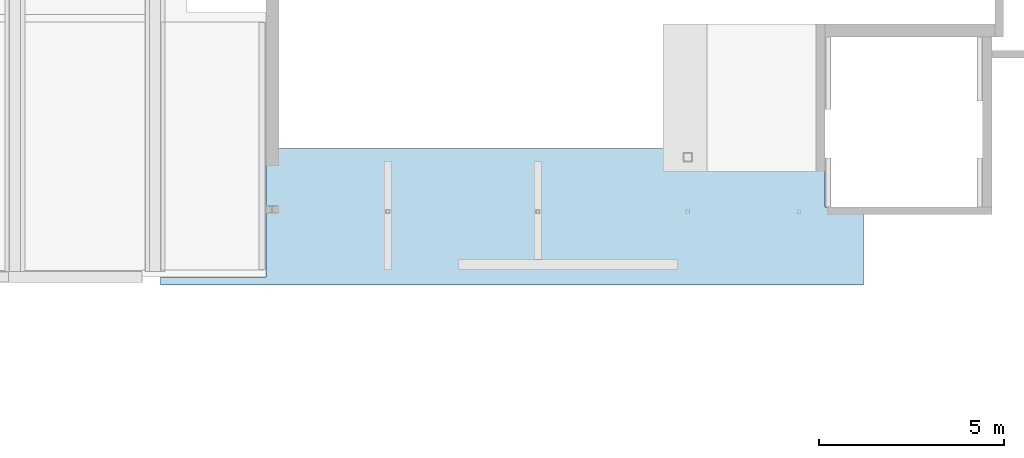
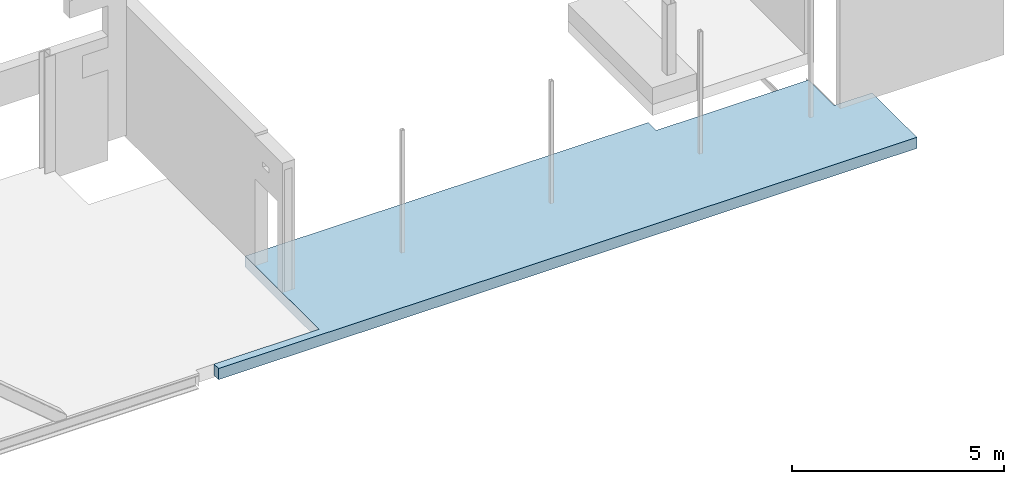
# One storey, part 33 of 37: 1 slab.
"""IFC2X3 building model written with IfcOpenShell, lengths in millimetres."""

from ifc_helpers import new_model, entity, si_unit, converted_unit, derived_unit, direction, frame, origin, place, context, subcontext, project, spatial, faceted_brep, material, type_object, element, save


model = new_model("IFC2X3")

# Units and contexts
model_context = context("Model", 3, precision=0.01, world=origin(), true_north=direction((6.12303176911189e-17, 1.0)))
body_context = subcontext(model_context, "Body", "Model", "MODEL_VIEW")
ifc_project = project(units=[si_unit("LENGTHUNIT", "METRE", prefix="MILLI"), si_unit("AREAUNIT", "SQUARE_METRE", prefix="MILLI"), si_unit("VOLUMEUNIT", "CUBIC_METRE"), converted_unit("PLANEANGLEUNIT", "DEGREE", entity("IfcRatioMeasure", 0.0174532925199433), si_unit("PLANEANGLEUNIT", "RADIAN"), dimensions=[0, 0, 0, 0, 0, 0, 0]), si_unit("MASSUNIT", "GRAM", prefix="KILO"), derived_unit("MASSDENSITYUNIT", [(si_unit("MASSUNIT", "GRAM", prefix="KILO"), 1), (si_unit("LENGTHUNIT", "METRE"), -3)]), derived_unit("MOMENTOFINERTIAUNIT", [(si_unit("LENGTHUNIT", "METRE"), 4)]), si_unit("TIMEUNIT", "SECOND"), si_unit("FREQUENCYUNIT", "HERTZ"), si_unit("THERMODYNAMICTEMPERATUREUNIT", "DEGREE_CELSIUS"), derived_unit("THERMALTRANSMITTANCEUNIT", [(si_unit("MASSUNIT", "GRAM", prefix="KILO"), 1), (si_unit("THERMODYNAMICTEMPERATUREUNIT", "KELVIN"), -1), (si_unit("TIMEUNIT", "SECOND"), -3)]), derived_unit("VOLUMETRICFLOWRATEUNIT", [(si_unit("LENGTHUNIT", "METRE"), 3), (si_unit("TIMEUNIT", "SECOND"), -1)]), si_unit("ELECTRICCURRENTUNIT", "AMPERE"), si_unit("ELECTRICVOLTAGEUNIT", "VOLT"), si_unit("POWERUNIT", "WATT"), si_unit("FORCEUNIT", "NEWTON", prefix="KILO"), si_unit("ILLUMINANCEUNIT", "LUX"), si_unit("LUMINOUSFLUXUNIT", "LUMEN"), si_unit("LUMINOUSINTENSITYUNIT", "CANDELA"), derived_unit("USERDEFINED", [(si_unit("MASSUNIT", "GRAM", prefix="KILO"), -1), (si_unit("LENGTHUNIT", "METRE"), -2), (si_unit("TIMEUNIT", "SECOND"), 3), (si_unit("LUMINOUSFLUXUNIT", "LUMEN"), 1)]), derived_unit("LINEARVELOCITYUNIT", [(si_unit("LENGTHUNIT", "METRE"), 1), (si_unit("TIMEUNIT", "SECOND"), -1)]), si_unit("PRESSUREUNIT", "PASCAL"), derived_unit("USERDEFINED", [(si_unit("LENGTHUNIT", "METRE"), -2), (si_unit("MASSUNIT", "GRAM", prefix="KILO"), 1), (si_unit("TIMEUNIT", "SECOND"), -2)]), derived_unit("LINEARFORCEUNIT", [(si_unit("MASSUNIT", "GRAM", prefix="KILO"), 1), (si_unit("LENGTHUNIT", "METRE"), 1), (si_unit("TIMEUNIT", "SECOND"), -2), (si_unit("LENGTHUNIT", "METRE"), -1)]), derived_unit("PLANARFORCEUNIT", [(si_unit("MASSUNIT", "GRAM", prefix="KILO"), 1), (si_unit("LENGTHUNIT", "METRE"), 1), (si_unit("TIMEUNIT", "SECOND"), -2), (si_unit("LENGTHUNIT", "METRE"), -2)])], contexts=[model_context])

# Site, building, storey
site_placement = place(None, origin())
site = spatial("IfcSite", under=ifc_project, at=site_placement, Name="Theater aan de Parade", CompositionType="ELEMENT")
building_placement = place(site_placement, origin())
building = spatial("IfcBuilding", under=site, at=building_placement, Name="Theater aan de Parade", CompositionType="ELEMENT")
storey_placement = place(building_placement, frame((0.0, 0.0, 5020.0)))
storey = spatial("IfcBuildingStorey", under=building, at=storey_placement, Name="01 eerste verdieping", CompositionType="ELEMENT", Elevation=5020.0)

# Slab
ifc_material = material(Name="00_PBT_MAT_beton t.p.g._C30/37")
slab_type = type_object("IfcSlabType", Name="Floor:28_PBT_FL_beton t.p.g._d=320_C30/37", PredefinedType="FLOOR")
slab_placement = place(storey_placement, origin())
element("IfcSlab", 1, at=slab_placement, inside=storey, type_object=slab_type, material=ifc_material, Name="Floor:28_PBT_FL_beton t.p.g._d=320_C30/37", ObjectType="Floor:28_PBT_FL_beton t.p.g._d=320_C30/37", PredefinedType="FLOOR", context=body_context, shape_type="Brep", body=[
    faceted_brep([(70628.6089693, 16087.0, -390.0), (70549.8589693, 16087.0, -390.0), (70549.8589693, 16087.0, -400.0), (67718.9561009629, 16087.0, -400.0), (67718.9561009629, 16087.0, -384.0), (70642.025377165, 16087.0, -384.0), (70638.9914078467, 16087.0, -386.215838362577), (70635.9574385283, 16087.0, -388.431676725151), (70632.2832039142, 16087.0, -389.215838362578), (74690.6089693, 16087.0, -390.0), (74611.8589693, 16087.0, -390.0), (74611.8589693, 16087.0, -400.0), (70749.8589693, 16087.0, -400.0), (70749.8589693, 16087.0, -390.0), (70671.1089693, 16087.0, -390.0), (70667.4347346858, 16087.0, -389.215838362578), (70663.7605000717, 16087.0, -388.431676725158), (70660.7265307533, 16087.0, -386.215838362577), (70657.692561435, 16087.0, -384.0), (74704.025377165, 16087.0, -384.0), (74700.9914078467, 16087.0, -386.215838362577), (74697.9574385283, 16087.0, -388.431676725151), (74694.2832039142, 16087.0, -389.215838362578), (67718.9561009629, 16087.0, -196.0), (67718.9561009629, 16087.0, -180.0), (78350.1000324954, 16087.0, -180.0), (78350.1000324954, 16087.0, -196.0), (74811.8589693, 16087.0, -390.0), (74733.1089693, 16087.0, -390.0), (74729.4347346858, 16087.0, -389.215838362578), (74725.7605000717, 16087.0, -388.431676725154), (74722.7265307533, 16087.0, -386.215838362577), (74719.692561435, 16087.0, -384.0), (78350.1000324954, 16087.0, -384.0), (78350.1000324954, 16087.0, -400.0), (74811.8589693, 16087.0, -400.0), (74728.8663286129, 13432.0, -388.937253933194), (74733.1089693, 13432.0, -390.0), (74811.8589693, 13432.0, -390.0), (74811.8589693, 13432.0, -400.0), (78500.0, 13432.0, -400.0), (78500.0, 13432.0, -382.0), (74718.1423397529, 13432.0, -382.0), (74721.3830138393, 13432.0, -384.937253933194), (74724.6236879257, 13432.0, -387.874507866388), (72570.0, 13432.0, -382.0), (72570.0, 13432.0, -400.0), (74611.8589693, 13432.0, -400.0), (74611.8589693, 13432.0, -390.0), (74690.6089693, 13432.0, -390.0), (74694.8516099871, 13432.0, -388.937253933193), (74699.0942506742, 13432.0, -387.874507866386), (74702.3349247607, 13432.0, -384.937253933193), (74705.5755988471, 13432.0, -382.0), (72570.0, 13432.0, -120.0), (72570.0, 13432.0, -138.0), (78500.0, 13432.0, -138.0), (78500.0, 13432.0, -120.0), (83535.0, 12992.0, -400.0), (83535.0, 12735.0, -400.0), (64494.5520755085, 12735.0, -400.0), (64494.5520755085, 12950.0, -400.0), (67356.2561009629, 12950.0, -400.0), (67356.2561009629, 13150.0, -400.0), (67356.2561009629, 16435.0, -400.0), (67706.2561009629, 16435.0, -400.0), (78100.1000324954, 16435.0, -400.0), (78350.1000324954, 16435.0, -400.0), (78350.1000324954, 16307.0, -400.0), (67718.9561009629, 16307.0, -400.0), (70549.8589693, 13150.0, -400.0), (70749.8589693, 13150.0, -400.0), (72570.0, 13350.0, -400.0), (72570.0, 13152.0, -400.0), (78500.0, 13152.0, -400.0), (78350.1000324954, 16059.9960954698, -400.0), (82500.0084217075, 16059.9960954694, -400.0), (82500.0084217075, 14850.0, -400.0), (83535.0, 14850.0, -400.0), (83535.0, 14650.0, -400.0), (83535.0, 13192.0, -400.0), (64494.5520755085, 12735.0, -80.0), (83535.0, 12735.0, -80.0), (83535.0, 14650.0, -80.0), (83535.0, 14850.0, -80.0), (82546.0, 14850.0, -80.0), (82500.0084217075, 14850.0, -80.0), (82500.0084217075, 15809.9960954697, -80.0), (82500.0084217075, 16059.9960954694, -80.0), (78350.1000324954, 16059.9960954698, -80.0), (78350.1000324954, 16435.0, -80.0), (78100.1000324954, 16435.0, -80.0), (67706.2561009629, 16435.0, -80.0), (67356.2561009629, 16435.0, -80.0), (67356.2561009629, 12950.0, -80.0), (64494.5520755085, 12950.0, -80.0), (70633.1742212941, 13150.0, -221.890989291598), (70637.2555563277, 13150.0, -223.581533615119), (70641.3368913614, 13150.0, -225.272077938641), (70641.3368913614, 16087.0, -225.272077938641), (70638.154910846, 16087.0, -223.95405845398), (70634.9729303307, 16087.0, -222.636038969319), (70631.7909498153, 16087.0, -221.318019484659), (70628.6089693, 16087.0, -220.0), (70628.6089693, 13150.0, -220.0), (70642.654910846, 13150.0, -228.454058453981), (70643.9729303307, 13150.0, -231.63603896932), (70645.2909498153, 13150.0, -234.81801948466), (70646.6089693, 13150.0, -238.0), (70646.6089693, 16087.0, -238.0), (70645.2909498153, 16087.0, -234.81801948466), (70643.9729303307, 16087.0, -231.63603896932), (70642.654910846, 16087.0, -228.454058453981), (70646.6089693, 13150.0, -372.0), (70646.6089693, 16087.0, -372.0), (70645.2909498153, 13150.0, -375.181980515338), (70646.0788390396, 16087.0, -376.336317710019), (70644.0521081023, 16087.0, -380.168158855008), (70642.654910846, 13150.0, -381.545941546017), (70641.3368913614, 13150.0, -384.727922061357), (70638.154910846, 13150.0, -386.045941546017), (70631.7909498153, 13150.0, -388.681980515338), (70628.6089693, 13150.0, -390.0), (70634.9729303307, 13150.0, -387.363961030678), (70643.9729303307, 13150.0, -378.363961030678), (70549.8589693, 13150.0, -390.0), (70749.8589693, 13150.0, -390.0), (70671.1089693, 13150.0, -390.0), (70549.8589693, 16087.0, -220.0), (70549.8589693, 16087.0, -210.0), (70549.8589693, 13150.0, -210.0), (70549.8589693, 13150.0, -220.0), (70749.8589693, 16087.0, -210.0), (70749.8589693, 16087.0, -220.0), (70749.8589693, 13150.0, -220.0), (70749.8589693, 13150.0, -210.0), (70661.563027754, 13150.0, -386.045941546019), (70658.3810472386, 13150.0, -384.727922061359), (70654.1532798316, 16087.0, -376.207969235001), (70655.7450082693, 13150.0, -378.36396103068), (70654.4269887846, 13150.0, -375.18198051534), (70657.063027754, 13150.0, -381.545941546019), (70655.1975903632, 16087.0, -380.41593847), (70664.7450082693, 13150.0, -387.36396103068), (70667.9269887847, 13150.0, -388.681980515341), (70653.1089693, 16087.0, -372.0), (70653.1089693, 13150.0, -372.0), (70653.1089693, 16087.0, -238.0), (70653.1089693, 13150.0, -238.0), (70655.0, 13150.0, -233.43474800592), (70656.6905029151, 13150.0, -229.353412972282), (70658.3810472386, 13150.0, -225.272077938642), (70658.3810472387, 16087.0, -225.272077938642), (70657.063027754, 16087.0, -228.454058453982), (70655.7450082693, 16087.0, -231.636038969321), (70654.4269887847, 16087.0, -234.818019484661), (70661.563027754, 13150.0, -223.954058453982), (70664.7450082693, 13150.0, -222.636038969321), (70667.9269887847, 13150.0, -221.31801948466), (70671.1089693, 13150.0, -220.0), (70671.1089693, 16087.0, -220.0), (70667.9269887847, 16087.0, -221.31801948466), (70664.7450082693, 16087.0, -222.636038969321), (70661.563027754, 16087.0, -223.954058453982), (74733.1089693, 16087.0, -220.0), (74733.1089693, 13432.0, -220.0), (74811.8589693, 13432.0, -220.0), (74811.8589693, 16087.0, -220.0), (74611.8589693, 16087.0, -220.0), (74611.8589693, 13432.0, -220.0), (74690.6089693, 13432.0, -220.0), (74690.6089693, 16087.0, -220.0), (74811.8589693, 16087.0, -210.0), (74811.8589693, 13432.0, -210.0), (74611.8589693, 13432.0, -210.0), (74611.8589693, 16087.0, -210.0), (74717.1975903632, 16087.0, -380.415938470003), (74716.1532798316, 16087.0, -376.207969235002), (74715.1089693, 16087.0, -372.0), (74715.1089693, 16087.0, -238.0), (74716.4269887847, 16087.0, -234.818019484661), (74717.7450082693, 16087.0, -231.636038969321), (74719.063027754, 16087.0, -228.454058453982), (74720.3810472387, 16087.0, -225.272077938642), (74723.563027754, 16087.0, -223.954058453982), (74726.7450082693, 16087.0, -222.636038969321), (74729.9269887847, 16087.0, -221.31801948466), (74693.7909498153, 16087.0, -221.318019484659), (74696.9729303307, 16087.0, -222.63603896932), (74700.154910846, 16087.0, -223.954058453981), (74703.3368913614, 16087.0, -225.272077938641), (74704.654910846, 16087.0, -228.454058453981), (74705.9729303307, 16087.0, -231.63603896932), (74707.2909498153, 16087.0, -234.81801948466), (74708.6089693, 16087.0, -238.0), (74708.6089693, 16087.0, -372.0), (74708.0788390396, 16087.0, -376.336317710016), (74706.0521081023, 16087.0, -380.168158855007), (74695.659118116, 13432.0, -222.09184013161), (74699.4980047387, 13432.0, -223.681959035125), (74703.3368913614, 13432.0, -225.272077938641), (74704.654910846, 13432.0, -228.454058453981), (74705.9729303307, 13432.0, -231.63603896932), (74707.2909498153, 13432.0, -234.818019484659), (74708.6089693, 13432.0, -238.0), (74708.6089693, 13432.0, -372.0), (74707.2388821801, 13432.0, -378.888105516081), (74707.92392574, 13432.0, -375.44405275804), (74716.7991896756, 13432.0, -378.758840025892), (74715.4560395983, 13432.0, -375.517680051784), (74715.1089693, 13432.0, -372.0), (74715.1089693, 13432.0, -238.0), (74717.2008094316, 13432.0, -232.94985118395), (74718.7909283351, 13432.0, -229.110964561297), (74720.3810472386, 13432.0, -225.272077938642), (74723.563027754, 13432.0, -223.954058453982), (74726.7450082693, 13432.0, -222.636038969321), (74729.9269887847, 13432.0, -221.31801948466), (78350.1000324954, 16174.249999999, -384.0), (78350.1000324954, 16177.4319805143, -382.681980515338), (78350.1000324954, 16180.6139610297, -381.363961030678), (78350.1000324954, 16183.795941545, -380.045941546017), (78350.1000324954, 16186.9779220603, -378.727922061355), (78350.1000324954, 16188.7143184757, -374.535890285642), (78350.1000324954, 16190.4821592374, -370.26794514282), (78350.1000324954, 16192.249999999, -366.0), (78350.1000324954, 16192.249999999, -214.0), (78350.1000324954, 16190.9319805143, -210.818019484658), (78350.1000324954, 16189.6139610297, -207.636038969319), (78350.1000324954, 16188.295941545, -204.454058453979), (78350.1000324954, 16186.9779220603, -201.272077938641), (78350.1000324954, 16182.7858902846, -199.535681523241), (78350.1000324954, 16178.5179451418, -197.767840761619), (78350.1000324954, 16174.249999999, -196.0), (78350.1000324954, 16307.0, -180.0), (78350.1000324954, 16307.0, -196.0), (78350.1000324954, 16219.749999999, -196.0), (78350.1000324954, 16216.5680194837, -197.31801948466), (78350.1000324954, 16213.3860389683, -198.636038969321), (78350.1000324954, 16210.204058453, -199.954058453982), (78350.1000324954, 16207.0220779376, -201.272077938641), (78350.1000324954, 16205.2856815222, -205.464109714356), (78350.1000324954, 16203.5178407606, -209.732054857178), (78350.1000324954, 16201.749999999, -214.0), (78350.1000324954, 16201.749999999, -366.0), (78350.1000324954, 16203.0680194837, -369.181980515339), (78350.1000324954, 16204.3860389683, -372.363961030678), (78350.1000324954, 16205.704058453, -375.545941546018), (78350.1000324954, 16207.0220779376, -378.727922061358), (78350.1000324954, 16211.2141097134, -380.464318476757), (78350.1000324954, 16215.4820548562, -382.232159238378), (78350.1000324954, 16219.749999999, -384.0), (78350.1000324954, 16307.0, -384.0), (72459.4581461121, 16174.249999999, -196.0), (67718.9561009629, 16174.249999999, -196.0), (67718.9561009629, 16307.0, -196.0), (67718.9561009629, 16219.749999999, -196.0), (72459.4512652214, 16219.749999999, -196.0), (73321.6607760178, 16191.4839480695, -208.804710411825), (72458.9295029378, 16192.249999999, -214.0), (67718.9561009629, 16180.6139610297, -198.63603896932), (67718.9561009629, 16178.5179451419, -197.767840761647), (73018.0319698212, 16179.472864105, -196.774388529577), (72506.2409667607, 16184.2502641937, -199.033546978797), (73034.5280668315, 16189.2164530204, -203.999735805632), (67718.9561009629, 16189.6139610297, -207.63603896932), (67718.9561009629, 16188.295941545, -204.45405845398), (67718.9561009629, 16192.249999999, -214.0), (67718.9561009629, 16190.4821592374, -209.732054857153), (71487.9809978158, 16187.0455128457, -201.340029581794), (67718.9561009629, 16183.795941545, -199.95405845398), (67718.9561009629, 16186.9779220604, -201.272077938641), (72459.7228107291, 16192.249999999, -366.0), (67718.9561009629, 16192.249999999, -366.0), (73321.6607762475, 16179.4452895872, -383.233948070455), (72459.4512653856, 16174.249999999, -384.0), (67718.9561009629, 16189.6139610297, -372.363961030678), (67718.9561009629, 16190.4821592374, -370.267945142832), (73018.031969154, 16191.4756114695, -371.222864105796), (72506.2409667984, 16189.2164530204, -376.00026419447), (73034.5280667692, 16184.2502641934, -380.966453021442), (67718.9561009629, 16180.6139610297, -381.363961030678), (67718.9561009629, 16183.795941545, -380.045941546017), (67718.9561009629, 16174.249999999, -384.0), (67718.9561009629, 16178.5179451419, -382.232159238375), (71487.9809977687, 16186.9099704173, -378.79551284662), (67718.9561009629, 16188.295941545, -375.545941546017), (67718.9561009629, 16186.9779220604, -378.727922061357), (72459.4512653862, 16219.749999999, -384.0), (67718.9561009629, 16219.749999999, -384.0), (67718.9561009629, 16307.0, -384.0), (67718.9561009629, 16307.0, -180.0), (73321.6607763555, 16202.5160519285, -371.195289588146), (72459.4512652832, 16201.749999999, -366.0), (67718.9561009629, 16213.3860389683, -381.363961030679), (67718.9561009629, 16215.4820548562, -382.232159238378), (73018.0319689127, 16214.5271358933, -383.22561147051), (72506.2409668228, 16209.7497358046, -380.966453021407), (73034.5280667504, 16204.7835469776, -376.000264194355), (67718.9561009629, 16204.3860389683, -372.363961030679), (67718.9561009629, 16205.704058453, -375.545941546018), (67718.9561009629, 16201.749999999, -366.0), (67718.9561009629, 16203.5178407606, -370.267945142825), (71487.9809977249, 16206.9544871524, -378.659970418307), (67718.9561009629, 16210.204058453, -380.045941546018), (67718.9561009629, 16207.0220779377, -378.727922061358), (72459.4512652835, 16201.749999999, -214.0), (67718.9561009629, 16201.749999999, -214.0), (73321.6607764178, 16214.5547104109, -196.766051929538), (67718.9561009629, 16204.3860389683, -207.636038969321), (67718.9561009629, 16203.5178407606, -209.732054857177), (73018.0319687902, 16202.5243885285, -208.777135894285), (72506.2409668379, 16204.7835469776, -203.999735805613), (73034.5280667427, 16209.7497358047, -199.033546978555), (67718.9561009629, 16213.3860389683, -198.636038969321), (67718.9561009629, 16210.204058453, -199.954058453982), (67718.9561009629, 16215.4820548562, -197.767840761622), (71487.9809976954, 16207.0900295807, -201.204487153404), (67718.9561009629, 16205.704058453, -204.454058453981), (67718.9561009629, 16207.0220779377, -201.272077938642), (72570.0, 13262.749999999, -382.0), (72570.0, 13152.0, -382.0), (72570.0, 13321.249999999, -382.0), (72570.0, 13314.2877100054, -379.116125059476), (72570.0, 13309.283573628, -377.043343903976), (72570.0, 13304.2794372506, -374.970562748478), (72570.0, 13302.5220779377, -370.727922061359), (72570.0, 13300.7647186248, -366.485281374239), (72570.0, 13299.0073593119, -362.242640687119), (72570.0, 13297.249999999, -358.0), (72570.0, 13297.249999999, -162.0), (72570.0, 13300.1338749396, -155.037710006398), (72570.0, 13302.2066560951, -150.03357362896), (72570.0, 13304.2794372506, -145.029437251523), (72570.0, 13308.5220779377, -143.272077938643), (72570.0, 13312.7647186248, -141.514718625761), (72570.0, 13317.0073593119, -139.757359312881), (72570.0, 13321.249999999, -138.0), (72570.0, 13152.0, -120.0), (72570.0, 13152.0, -138.0), (72570.0, 13262.749999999, -138.0), (72570.0, 13269.7122899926, -140.883874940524), (72570.0, 13274.7164263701, -142.956656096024), (72570.0, 13279.7205627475, -145.029437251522), (72570.0, 13281.4779220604, -149.272077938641), (72570.0, 13283.2352813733, -153.51471862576), (72570.0, 13284.9926406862, -157.75735931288), (72570.0, 13286.749999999, -162.0), (72570.0, 13286.749999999, -358.0), (72570.0, 13283.8661250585, -364.962289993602), (72570.0, 13281.793343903, -369.966426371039), (72570.0, 13279.7205627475, -374.970562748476), (72570.0, 13275.4779220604, -376.727922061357), (72570.0, 13271.2352813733, -378.485281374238), (72570.0, 13266.9926406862, -380.242640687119), (78500.0, 13152.0, -382.0), (78500.0, 13262.749999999, -382.0), (78500.0, 13266.9926406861, -380.242640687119), (78500.0, 13271.2352813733, -378.485281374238), (78500.0, 13275.4779220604, -376.727922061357), (78500.0, 13279.7205627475, -374.970562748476), (78500.0, 13281.4779220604, -370.727922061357), (78500.0, 13283.2352813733, -366.485281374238), (78500.0, 13284.9926406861, -362.242640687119), (78500.0, 13286.749999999, -358.0), (78500.0, 13286.749999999, -162.0), (78500.0, 13284.9926406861, -157.75735931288), (78500.0, 13283.2352813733, -153.51471862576), (78500.0, 13281.4779220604, -149.272077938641), (78500.0, 13279.7205627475, -145.029437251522), (78500.0, 13275.4779220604, -143.272077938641), (78500.0, 13271.2352813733, -141.51471862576), (78500.0, 13266.9926406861, -139.757359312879), (78500.0, 13262.749999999, -138.0), (78500.0, 13152.0, -138.0), (78500.0, 13152.0, -120.0), (78500.0, 13321.249999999, -138.0), (78500.0, 13317.0073593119, -139.757359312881), (78500.0, 13312.7647186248, -141.514718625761), (78500.0, 13308.5220779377, -143.272077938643), (78500.0, 13304.2794372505, -145.029437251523), (78500.0, 13302.5220779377, -149.272077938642), (78500.0, 13300.7647186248, -153.514718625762), (78500.0, 13299.0073593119, -157.757359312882), (78500.0, 13297.249999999, -162.0), (78500.0, 13297.249999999, -358.0), (78500.0, 13299.0073593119, -362.24264068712), (78500.0, 13300.7647186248, -366.485281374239), (78500.0, 13302.5220779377, -370.727922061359), (78500.0, 13304.2794372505, -374.970562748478), (78500.0, 13308.5220779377, -376.727922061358), (78500.0, 13312.7647186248, -378.485281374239), (78500.0, 13317.0073593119, -380.24264068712), (78500.0, 13321.249999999, -382.0)], [[[0, 1, 2, 3, 4, 5, 6, 7, 8]], [[9, 10, 11, 12, 13, 14, 15, 16, 17, 18, 19, 20, 21, 22]], [[23, 24, 25, 26]], [[27, 28, 29, 30, 31, 32, 33, 34, 35]], [[36, 37, 38, 39, 40, 41, 42, 43, 44]], [[45, 46, 47, 48, 49, 50, 51, 52, 53]], [[54, 55, 56, 57]], [[58, 59, 60, 61, 62, 63, 64, 65, 66, 67, 68, 69, 3, 2, 70, 71, 12, 11, 47, 46, 72, 73, 74, 40, 39, 35, 34, 75, 76, 77, 78, 79, 80]], [[81, 82, 83, 84, 85, 86, 87, 88, 89, 90, 91, 92, 93, 94, 95]], [[60, 59, 82, 81]], [[63, 62, 94, 93, 64]], [[65, 64, 93, 92, 91, 90, 67, 66]], [[79, 78, 84, 83, 82, 59, 58, 80]], [[96, 97, 98, 99, 100, 101, 102, 103, 104]], [[99, 98, 105, 106, 107, 108, 109, 110, 111, 112]], [[109, 108, 113, 114]], [[114, 115, 116]], [[5, 117, 118]], [[115, 114, 113]], [[118, 119, 5]], [[6, 119, 120]], [[119, 6, 5]], [[0, 121, 122]], [[8, 123, 121]], [[117, 116, 124]], [[8, 121, 0]], [[120, 123, 7]], [[120, 7, 6]], [[7, 123, 8]], [[115, 124, 116]], [[117, 124, 118]], [[0, 122, 125, 1]], [[13, 126, 127, 14]], [[10, 9, 49, 48]], [[28, 27, 38, 37]], [[1, 125, 70, 2]], [[128, 129, 130, 131]], [[13, 12, 71, 126]], [[132, 133, 134, 135]], [[17, 136, 137]], [[138, 139, 140]], [[18, 141, 142]], [[143, 15, 144]], [[143, 136, 16]], [[14, 127, 144]], [[143, 16, 15]], [[145, 140, 146]], [[141, 18, 137]], [[138, 140, 145]], [[141, 139, 142]], [[16, 136, 17]], [[14, 144, 15]], [[137, 18, 17]], [[142, 139, 138]], [[147, 145, 146, 148]], [[149, 150, 151, 152, 153, 154, 155, 147, 148]], [[152, 151, 156, 157, 158, 159, 160, 161, 162, 163]], [[160, 159, 134, 133]], [[103, 128, 131, 104]], [[164, 165, 166, 167]], [[168, 169, 170, 171]], [[132, 135, 130, 129]], [[172, 173, 174, 175]], [[70, 125, 122, 121, 123, 120, 119, 118, 124, 115, 113, 108, 107, 106, 105, 98, 97, 96, 104, 131, 130, 135, 134, 159, 158, 157, 156, 151, 150, 149, 148, 146, 140, 139, 141, 137, 136, 143, 144, 127, 126, 71]], [[142, 138, 145, 147, 155, 154, 153, 152, 163, 162, 161, 160, 133, 132, 129, 128, 103, 102, 101, 100, 99, 112, 111, 110, 109, 114, 116, 117, 5, 18]], [[176, 177, 178, 179, 180, 181, 182, 183, 184, 185, 186, 164, 167, 172, 175, 168, 171, 187, 188, 189, 190, 191, 192, 193, 194, 195, 196, 197, 19, 32]], [[198, 199, 200, 190, 189, 188, 187, 171, 170]], [[190, 200, 201, 202, 203, 204, 194, 193, 192, 191]], [[194, 204, 205, 195]], [[53, 197, 206]], [[49, 22, 50]], [[206, 197, 196]], [[195, 207, 196]], [[197, 53, 19]], [[207, 195, 205]], [[22, 21, 50]], [[19, 52, 20]], [[51, 50, 21]], [[19, 53, 52]], [[51, 21, 20]], [[22, 49, 9]], [[52, 51, 20]], [[207, 206, 196]], [[11, 10, 48, 47]], [[175, 174, 169, 168]], [[27, 35, 39, 38]], [[167, 166, 173, 172]], [[44, 30, 36]], [[32, 43, 42]], [[44, 31, 30]], [[44, 43, 31]], [[37, 29, 28]], [[43, 32, 31]], [[37, 36, 29]], [[208, 177, 176]], [[209, 177, 208]], [[178, 209, 210]], [[36, 30, 29]], [[42, 176, 32]], [[209, 178, 177]], [[176, 42, 208]], [[179, 178, 210, 211]], [[212, 213, 214, 183, 182, 181, 180, 179, 211]], [[183, 214, 215, 216, 217, 165, 164, 186, 185, 184]], [[53, 206, 207, 205, 204, 203, 202, 201, 200, 199, 198, 170, 169, 174, 173, 166, 165, 217, 216, 215, 214, 213, 212, 211, 210, 209, 208, 42]], [[67, 90, 89, 75, 34, 33, 218, 219, 220, 221, 222, 223, 224, 225, 226, 227, 228, 229, 230, 231, 232, 233, 26, 25, 234, 235, 236, 237, 238, 239, 240, 241, 242, 243, 244, 245, 246, 247, 248, 249, 250, 251, 252, 68]], [[76, 75, 89, 88]], [[77, 76, 88, 87, 86]], [[78, 77, 86, 85, 84]], [[26, 233, 253, 254, 23]], [[255, 256, 257, 236, 235]], [[258, 227, 259]], [[260, 261, 262]], [[262, 261, 253]], [[231, 263, 262]], [[264, 265, 266]], [[227, 226, 259]], [[259, 267, 268]], [[254, 253, 261]], [[233, 232, 231, 262]], [[262, 263, 260]], [[269, 270, 263]], [[230, 263, 231]], [[228, 258, 264]], [[230, 264, 269]], [[264, 230, 229, 228]], [[269, 271, 270]], [[230, 269, 263]], [[265, 258, 268]], [[268, 258, 259]], [[233, 262, 253]], [[260, 263, 270]], [[265, 264, 258]], [[271, 269, 266]], [[266, 269, 264]], [[258, 228, 227]], [[226, 225, 272, 273, 267, 259]], [[274, 219, 275]], [[276, 277, 278]], [[278, 277, 272]], [[223, 279, 278]], [[280, 281, 282]], [[219, 218, 275]], [[275, 283, 284]], [[273, 272, 277]], [[225, 224, 223, 278]], [[278, 279, 276]], [[285, 286, 279]], [[222, 279, 223]], [[220, 274, 280]], [[222, 280, 285]], [[280, 222, 221, 220]], [[285, 287, 286]], [[222, 285, 279]], [[281, 274, 284]], [[284, 274, 275]], [[225, 278, 272]], [[286, 276, 279]], [[281, 280, 274]], [[287, 285, 282]], [[282, 285, 280]], [[274, 220, 219]], [[32, 19, 18, 5, 4, 283, 275, 218, 33]], [[252, 251, 288, 289, 290]], [[290, 69, 68, 252]], [[291, 255, 235, 234]], [[292, 245, 293]], [[294, 295, 296]], [[296, 295, 288]], [[249, 297, 296]], [[298, 299, 300]], [[245, 244, 293]], [[293, 301, 302]], [[289, 288, 295]], [[251, 250, 249, 296]], [[296, 297, 294]], [[303, 304, 297]], [[248, 297, 249]], [[247, 246, 298, 248]], [[248, 298, 303]], [[298, 246, 292]], [[303, 305, 304]], [[248, 303, 297]], [[299, 292, 302]], [[302, 292, 293]], [[251, 296, 288]], [[294, 297, 304]], [[299, 298, 292]], [[305, 303, 300]], [[300, 303, 298]], [[292, 246, 245]], [[244, 243, 306, 307, 301, 293]], [[308, 237, 257]], [[309, 310, 311]], [[311, 310, 306]], [[241, 312, 311]], [[313, 314, 315]], [[237, 236, 257]], [[257, 256, 316]], [[307, 306, 310]], [[243, 242, 241, 311]], [[311, 312, 309]], [[317, 318, 312]], [[240, 312, 241]], [[239, 238, 313, 240]], [[240, 313, 317]], [[313, 238, 308]], [[317, 319, 318]], [[240, 317, 312]], [[314, 308, 316]], [[316, 308, 257]], [[243, 311, 306]], [[309, 312, 318]], [[314, 313, 308]], [[319, 317, 315]], [[315, 317, 313]], [[308, 238, 237]], [[24, 291, 234, 25]], [[283, 4, 3, 69, 290, 289, 295, 294, 304, 305, 300, 299, 302, 301, 307, 310, 309, 318, 319, 315, 314, 316, 256, 255, 291, 24, 23, 254, 261, 260, 270, 271, 266, 265, 268, 267, 273, 277, 276, 286, 287, 282, 281, 284]], [[320, 321, 73, 72, 46, 45, 322, 323, 324, 325, 326, 327, 328, 329, 330, 331, 332, 333, 334, 335, 336, 337, 55, 54, 338, 339, 340, 341, 342, 343, 344, 345, 346, 347, 348, 349, 350, 351, 352, 353, 354]], [[74, 355, 356, 357, 358, 359, 360, 361, 362, 363, 364, 365, 366, 367, 368, 369, 370, 371, 372, 373, 374, 375, 57, 56, 376, 377, 378, 379, 380, 381, 382, 383, 384, 385, 386, 387, 388, 389, 390, 391, 392, 393, 41, 40]], [[339, 338, 375, 374]], [[73, 321, 355, 74]], [[340, 339, 374, 373]], [[55, 337, 376, 56]], [[371, 370, 369, 343, 342, 341, 340, 373, 372]], [[368, 367, 366, 365, 347, 346, 345, 344, 343, 369]], [[348, 347, 365, 364]], [[362, 361, 360, 351, 350, 349, 348, 364, 363]], [[359, 358, 357, 356, 320, 354, 353, 352, 351, 360]], [[321, 320, 356, 355]], [[322, 45, 53, 42, 41, 393]], [[391, 390, 389, 325, 324, 323, 322, 393, 392]], [[388, 387, 386, 385, 329, 328, 327, 326, 325, 389]], [[330, 329, 385, 384]], [[382, 381, 380, 333, 332, 331, 330, 384, 383]], [[379, 378, 377, 376, 337, 336, 335, 334, 333, 380]], [[338, 54, 57, 375]], [[61, 60, 81, 95]], [[62, 61, 95, 94]]]),
])

save(model, "model.ifc")
